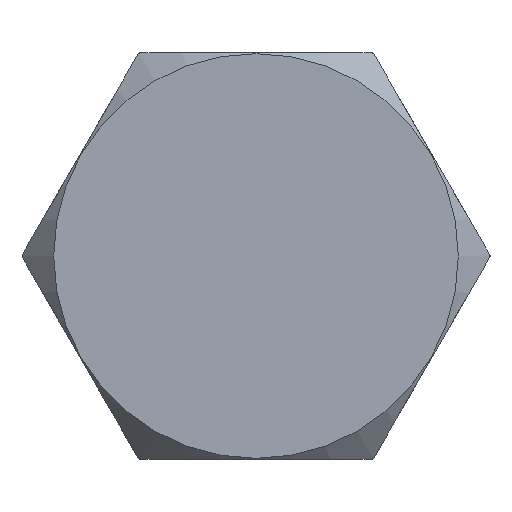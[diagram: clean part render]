
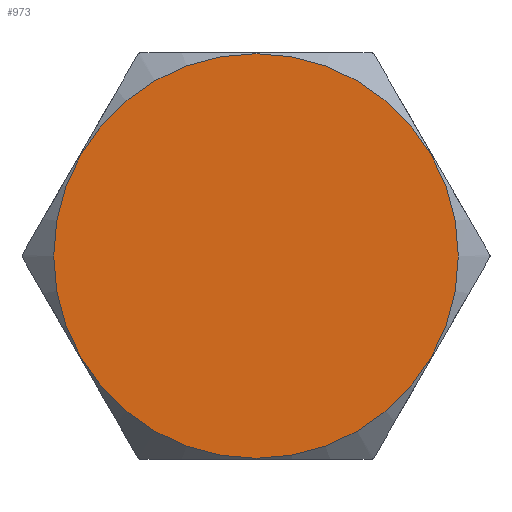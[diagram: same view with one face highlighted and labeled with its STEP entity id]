
A CAD part, front view. The second image highlights one B-rep face of the part: STEP entity #973.
In plain terms, the highlighted planar face has unit normal (0, -1, 0).
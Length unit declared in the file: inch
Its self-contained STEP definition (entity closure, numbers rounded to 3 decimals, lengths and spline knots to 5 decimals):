
#57=PLANE('',#1109);
#208=FACE_OUTER_BOUND('',#268,.T.);
#268=EDGE_LOOP('',(#821));
#340=CIRCLE('',#1106,0.498);
#454=VERTEX_POINT('',#1825);
#583=EDGE_CURVE('',#454,#454,#340,.T.);
#821=ORIENTED_EDGE('',*,*,#583,.F.);
#973=ADVANCED_FACE('',(#208),#57,.T.);
#1106=AXIS2_PLACEMENT_3D('',#1826,#1350,#1351);
#1109=AXIS2_PLACEMENT_3D('',#1830,#1357,#1358);
#1350=DIRECTION('center_axis',(0.,1.,0.));
#1351=DIRECTION('ref_axis',(0.,0.,1.));
#1357=DIRECTION('center_axis',(0.,-1.,0.));
#1358=DIRECTION('ref_axis',(0.,0.,-1.));
#1825=CARTESIAN_POINT('',(0.,0.,-0.498));
#1826=CARTESIAN_POINT('Origin',(0.,0.,0.));
#1830=CARTESIAN_POINT('Origin',(0.,0.,0.));
